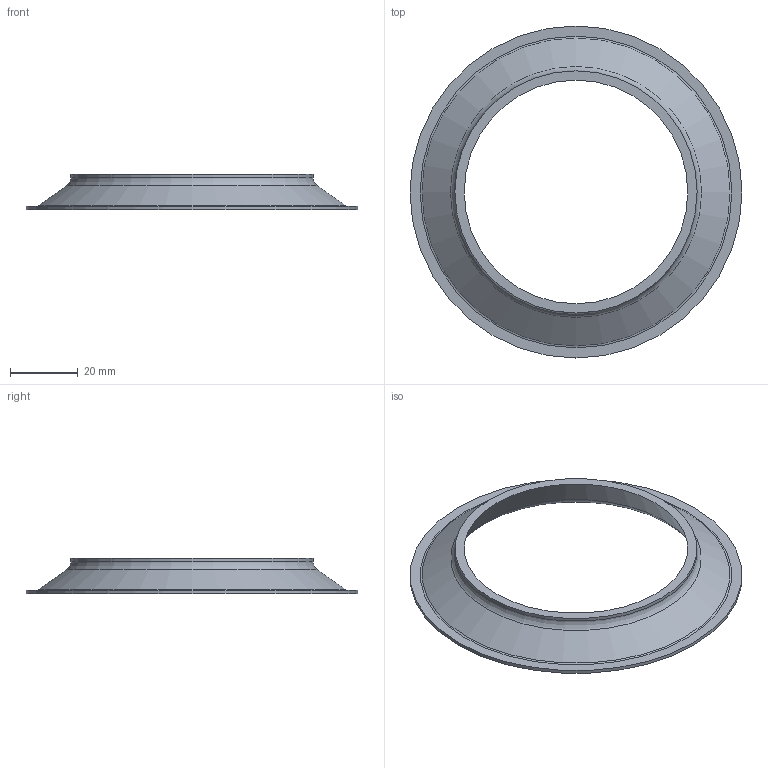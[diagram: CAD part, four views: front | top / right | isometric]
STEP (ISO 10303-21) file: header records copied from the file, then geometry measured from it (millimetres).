
FILE_DESCRIPTION( ('This file contains a STEP AP42 implementation' ,'as created by ZW3D STEP Interface translator.') ,'2;1' );
FILE_NAME( 'KM-66.stp' ,'26 511.12 7 3', (''), ('ZWCAD Software Co.'), 'Version 1.0', 'ZW3D to STEP translator', '' );
FILE_SCHEMA(('AP242_MANAGED_MODEL_BASED_3D_ENGINEERING_MIM_LF { 1 0 10303 442 1 1 4 }'));
Length unit declared in the file: millimetre
Products named in the file (1): 0
Bounding box: 98 x 98 x 10.5 mm (x, y, z)
Volume: 12587.5 mm3; surface area: 11036.1 mm2
Topology: 1 solids, 1 shells, 10 faces, 17 edges, 10 vertices
Faces by surface type: plane 3, torus 3, cylinder 2, cone 2
Full cylindrical faces by diameter (mm): 71.5 x1, 98 x1
Entity records: 276 total; most frequent: DIRECTION 52, CARTESIAN_POINT 38, ORIENTED_EDGE 34, AXIS2_PLACEMENT_3D 24, EDGE_CURVE 17, CIRCLE 13, EDGE_LOOP 13, VERTEX_POINT 10
